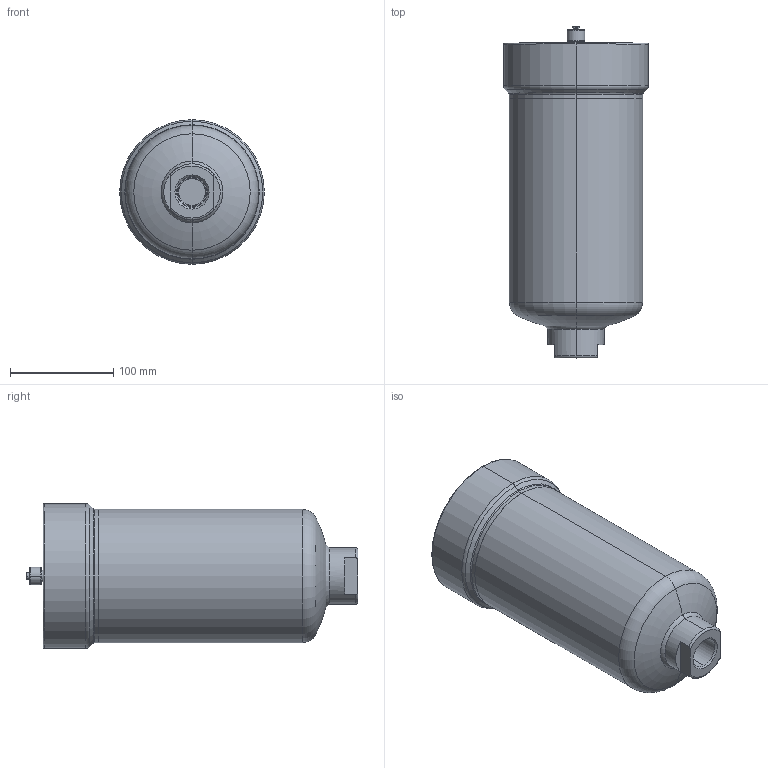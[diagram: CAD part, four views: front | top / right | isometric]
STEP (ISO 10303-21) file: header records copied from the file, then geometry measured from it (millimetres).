
FILE_DESCRIPTION (( 'STEP AP214' ), '1' );
FILE_NAME ('U030A03X1-AI.STEP', '2025-05-28T12:00:24', ( '' ), ( '' ), 'SwSTEP 2.0', 'SolidWorks 2024', '' );
FILE_SCHEMA (( 'AUTOMOTIVE_DESIGN' ));
Length unit declared in the file: millimetre
Products named in the file (1): U030A03X1-AI
Bounding box: 140 x 321.49 x 140 mm (x, y, z)
Volume: 3569805.7 mm3; surface area: 163369 mm2
Topology: 8 solids, 8 shells, 290 faces, 632 edges, 371 vertices
Faces by surface type: plane 109, cylinder 84, torus 59, cone 34, sphere 4
Entity records: 8145 total; most frequent: CARTESIAN_POINT 1541, DIRECTION 1513, ORIENTED_EDGE 1240, AXIS2_PLACEMENT_3D 625, EDGE_CURVE 620, VERTEX_POINT 371, CIRCLE 334, EDGE_LOOP 331
